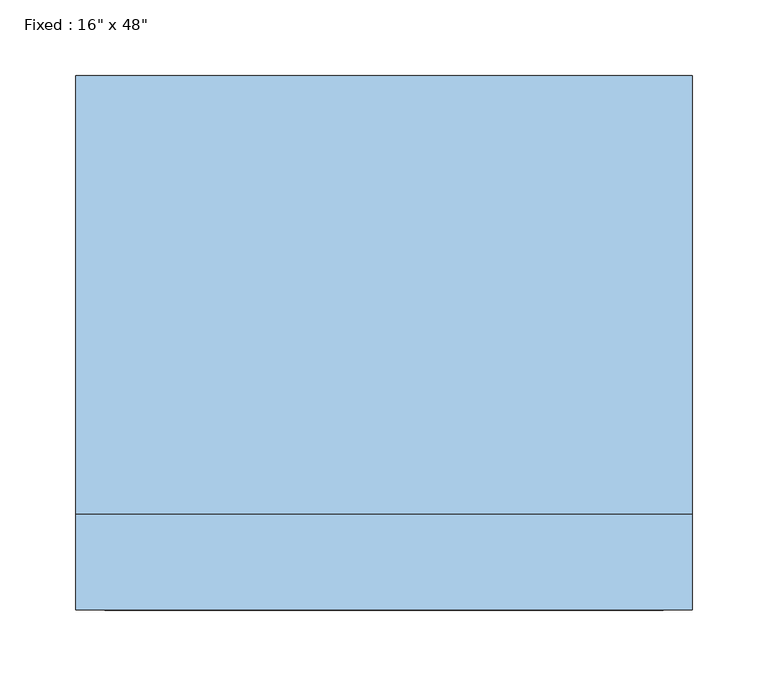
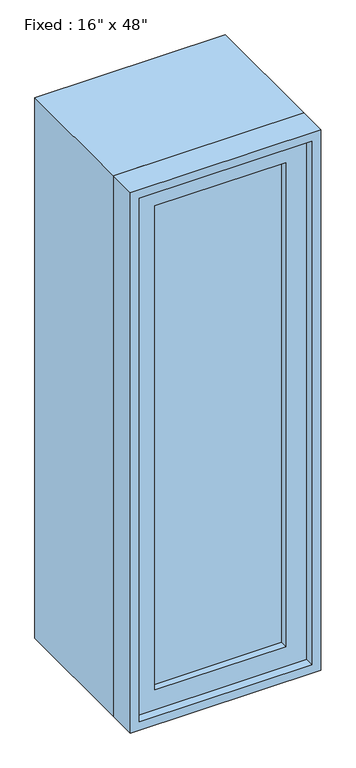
"""IFC4 building model written with IfcOpenShell, lengths in millimetres: window geometry."""

from ifc_helpers import new_model, si_unit, frame, origin, place, context, project, spatial, polyline, outline, extrude, source, transform, mapped, element, save


def window_d61ef850(model_context):
    return source(origin(), model_context, "Body", "SweptSolid", [
        extrude(outline(polyline([(101.6, -128.5875), (101.6, -141.2875), (-177.8, -141.2875), (-177.8, -128.5875), (101.6, -128.5875)])), frame((0.0, 0.0, 977.9), z_axis=(0.0, 0.0, 1.0), x_axis=(1.0, 0.0, 0.0)), (0.0, 0.0, 1.0), 1092.2),
        extrude(outline(polyline([(2114.55, -222.25), (933.45, -222.25), (933.45, 146.05), (2114.55, 146.05), (2114.55, -222.25)]), holes=[polyline([(2070.1, -177.8), (2070.1, 101.6), (977.9, 101.6), (977.9, -177.8), (2070.1, -177.8)])]), frame((0.0, -157.1625, 0.0), z_axis=(0.0, 1.0, 0.0), x_axis=(0.0, 0.0, 1.0)), (0.0, 0.0, 1.0), 44.45),
        extrude(outline(polyline([(2133.6, -241.3), (914.4, -241.3), (914.4, 165.1), (2133.6, 165.1), (2133.6, -241.3)]), holes=[polyline([(2101.85, -209.55), (2101.85, 133.35), (946.15, 133.35), (946.15, -209.55), (2101.85, -209.55)])]), frame((0.0, -112.7125, 0.0), z_axis=(0.0, 1.0, 0.0), x_axis=(0.0, 0.0, 1.0)), (0.0, 0.0, 1.0), 288.925),
        extrude(outline(polyline([(2133.6, 165.1), (2133.6, -241.3), (914.4, -241.3), (914.4, 165.1), (2133.6, 165.1)]), holes=[polyline([(2114.55, 146.05), (933.45, 146.05), (933.45, -222.25), (2114.55, -222.25), (2114.55, 146.05)])]), frame((0.0, -176.2125, 0.0), z_axis=(0.0, 1.0, 0.0), x_axis=(0.0, 0.0, 1.0)), (0.0, 0.0, 1.0), 63.5),
    ])


if __name__ == "__main__":
    model = new_model("IFC4")
    model_context = context("Model", 3, world=origin())
    ifc_project = project(units=[si_unit("LENGTHUNIT", "METRE", prefix="MILLI")], contexts=[model_context])
    site = spatial("IfcSite", under=ifc_project)
    building = spatial("IfcBuilding", under=site)
    placement = place(None, origin())
    window_shape = window_d61ef850(model_context)
    element("IfcWindow", 1, ObjectType="Fixed : 16\" x 48\"", at=placement, inside=building, context=model_context, shape_type="MappedRepresentation", body=[
        mapped(window_shape, transform((0.0, 0.0, 0.0), x_axis=(1.0, 0.0, 0.0), y_axis=(0.0, 1.0, 0.0), z_axis=(0.0, 0.0, 1.0))),
    ])
    save(model, "model.ifc")
